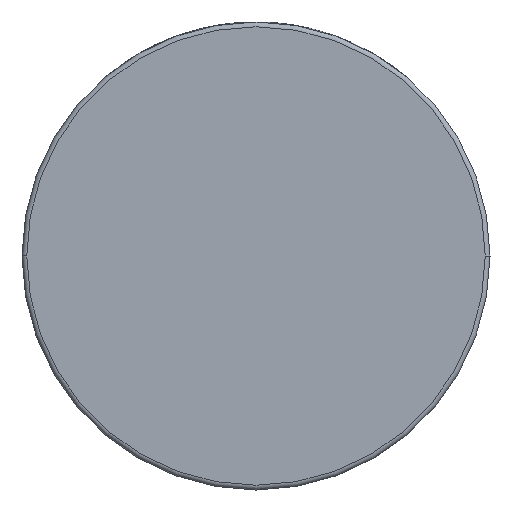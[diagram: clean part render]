
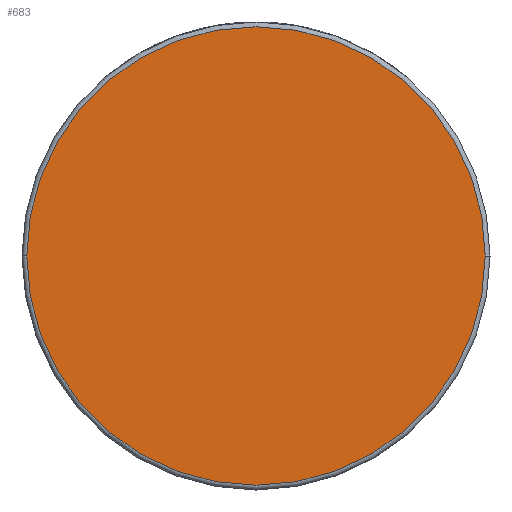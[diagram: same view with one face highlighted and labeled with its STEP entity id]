
A CAD part, front view. The second image highlights one B-rep face of the part: STEP entity #683.
In plain terms, the highlighted planar face has unit normal (0, -1, 0).
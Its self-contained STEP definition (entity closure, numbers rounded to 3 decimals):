
#11 = DIRECTION ( 'NONE',  ( 0., -1., 0. ) ) ;
#229 = CARTESIAN_POINT ( 'NONE',  ( -48., -30.5, 0. ) ) ;
#326 = CARTESIAN_POINT ( 'NONE',  ( 49., -30.5, 0. ) ) ;
#340 = CIRCLE ( 'NONE', #919, 48. ) ;
#375 = VERTEX_POINT ( 'NONE', #2509 ) ;
#638 = DIRECTION ( 'NONE',  ( 1., 0., 0. ) ) ;
#683 = ADVANCED_FACE ( 'NONE', ( #3435 ), #708, .T. ) ;
#708 = PLANE ( 'NONE',  #2090 ) ;
#919 = AXIS2_PLACEMENT_3D ( 'NONE', #2361, #3747, #638 ) ;
#1027 = DIRECTION ( 'NONE',  ( 1., 0., 0. ) ) ;
#1205 = AXIS2_PLACEMENT_3D ( 'NONE', #1638, #1247, #1684 ) ;
#1247 = DIRECTION ( 'NONE',  ( 0., -1., 0. ) ) ;
#1544 = VERTEX_POINT ( 'NONE', #229 ) ;
#1638 = CARTESIAN_POINT ( 'NONE',  ( 0., -30.5, 0. ) ) ;
#1684 = DIRECTION ( 'NONE',  ( 1., 0., 0. ) ) ;
#2090 = AXIS2_PLACEMENT_3D ( 'NONE', #326, #11, #1027 ) ;
#2361 = CARTESIAN_POINT ( 'NONE',  ( 0., -30.5, 0. ) ) ;
#2509 = CARTESIAN_POINT ( 'NONE',  ( 48., -30.5, 0. ) ) ;
#2696 = EDGE_CURVE ( 'NONE', #375, #1544, #3312, .T. ) ;
#2920 = ORIENTED_EDGE ( 'NONE', *, *, #2696, .T. ) ;
#2956 = ORIENTED_EDGE ( 'NONE', *, *, #3202, .T. ) ;
#3202 = EDGE_CURVE ( 'NONE', #1544, #375, #340, .T. ) ;
#3312 = CIRCLE ( 'NONE', #1205, 48. ) ;
#3435 = FACE_OUTER_BOUND ( 'NONE', #4171, .T. ) ;
#3747 = DIRECTION ( 'NONE',  ( 0., -1., 0. ) ) ;
#4171 = EDGE_LOOP ( 'NONE', ( #2920, #2956 ) ) ;
